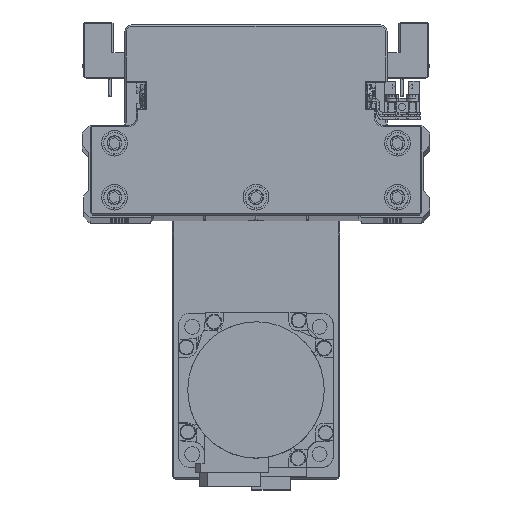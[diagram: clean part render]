
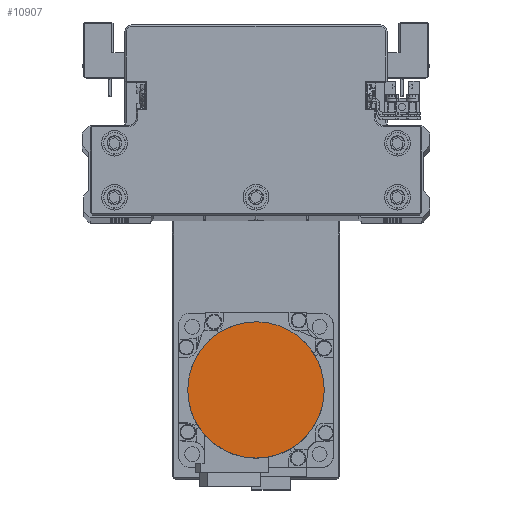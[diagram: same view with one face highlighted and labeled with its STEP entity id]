
A CAD part, top view. The second image highlights one B-rep face of the part: STEP entity #10907.
In plain terms, the highlighted planar face has unit normal (0, 0, 1) as drawn and (0, 0, -1) by its records, which use the part's own axes.
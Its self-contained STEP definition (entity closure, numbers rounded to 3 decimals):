
#85 = CARTESIAN_POINT ( 'NONE',  ( -23.819, -11.744, -109.7 ) ) ;
#291 = CARTESIAN_POINT ( 'NONE',  ( 3.469, -26.329, -109.7 ) ) ;
#498 = CARTESIAN_POINT ( 'NONE',  ( 26.329, -3.469, -109.7 ) ) ;
#1453 = CARTESIAN_POINT ( 'NONE',  ( 0., 0., -109.7 ) ) ;
#1503 = CARTESIAN_POINT ( 'NONE',  ( 13.28, 22.998, -109.7 ) ) ;
#1706 = CARTESIAN_POINT ( 'NONE',  ( -17.512, 19.965, -109.7 ) ) ;
#2713 = CARTESIAN_POINT ( 'NONE',  ( -26.5, 0., -109.7 ) ) ;
#3217 = CARTESIAN_POINT ( 'NONE',  ( -26.329, -3.469, -109.7 ) ) ;
#3425 = CARTESIAN_POINT ( 'NONE',  ( -3.469, -26.329, -109.7 ) ) ;
#3626 = CARTESIAN_POINT ( 'NONE',  ( 23.819, -11.744, -109.7 ) ) ;
#4636 = CARTESIAN_POINT ( 'NONE',  ( 19.965, 17.512, -109.7 ) ) ;
#4840 = CARTESIAN_POINT ( 'NONE',  ( -11.744, 23.819, -109.7 ) ) ;
#6566 = CARTESIAN_POINT ( 'NONE',  ( -11.744, -23.819, -109.7 ) ) ;
#6775 = CARTESIAN_POINT ( 'NONE',  ( 19.965, -17.512, -109.7 ) ) ;
#7769 = CARTESIAN_POINT ( 'NONE',  ( 23.819, 11.744, -109.7 ) ) ;
#7982 = CARTESIAN_POINT ( 'NONE',  ( -3.469, 26.329, -109.7 ) ) ;
#8188 = CARTESIAN_POINT ( 'NONE',  ( -26.329, 3.469, -109.7 ) ) ;
#9698 = CARTESIAN_POINT ( 'NONE',  ( -17.512, -19.965, -109.7 ) ) ;
#9910 = CARTESIAN_POINT ( 'NONE',  ( 13.28, -22.998, -109.7 ) ) ;
#10907 = ADVANCED_FACE ( 'NONE', ( #17317 ), #30026, .F. ) ;
#10911 = CARTESIAN_POINT ( 'NONE',  ( 26.329, 3.469, -109.7 ) ) ;
#11116 = CARTESIAN_POINT ( 'NONE',  ( 3.469, 26.329, -109.7 ) ) ;
#11326 = CARTESIAN_POINT ( 'NONE',  ( -23.819, 11.744, -109.7 ) ) ;
#12395 = EDGE_CURVE ( 'NONE', #23675, #39222, #20822, .T. ) ;
#12494 = ORIENTED_EDGE ( 'NONE', *, *, #12395, .F. ) ;
#12825 = CARTESIAN_POINT ( 'NONE',  ( -22.998, -13.28, -109.7 ) ) ;
#13031 = CARTESIAN_POINT ( 'NONE',  ( 6.871, -25.652, -109.7 ) ) ;
#13247 = CARTESIAN_POINT ( 'NONE',  ( 26.5, -1.734, -109.7 ) ) ;
#14183 = DIRECTION ( 'NONE',  ( 0., 0., 1. ) ) ;
#14233 = CARTESIAN_POINT ( 'NONE',  ( 11.744, 23.819, -109.7 ) ) ;
#14446 = CARTESIAN_POINT ( 'NONE',  ( -19.965, 17.512, -109.7 ) ) ;
#15951 = CARTESIAN_POINT ( 'NONE',  ( -25.652, -6.871, -109.7 ) ) ;
#16153 = CARTESIAN_POINT ( 'NONE',  ( -1.734, -26.5, -109.7 ) ) ;
#16358 = CARTESIAN_POINT ( 'NONE',  ( 25.147, -8.539, -109.7 ) ) ;
#16711 = CARTESIAN_POINT ( 'NONE',  ( 26.5, 0., -109.7 ) ) ;
#17317 = FACE_OUTER_BOUND ( 'NONE', #19040, .T. ) ;
#17370 = CARTESIAN_POINT ( 'NONE',  ( 17.512, 19.965, -109.7 ) ) ;
#17576 = CARTESIAN_POINT ( 'NONE',  ( -13.28, 22.998, -109.7 ) ) ;
#19040 = EDGE_LOOP ( 'NONE', ( #23245, #12494 ) ) ;
#19099 = CARTESIAN_POINT ( 'NONE',  ( -26.5, 0., -109.7 ) ) ;
#19314 = CARTESIAN_POINT ( 'NONE',  ( -8.539, -25.147, -109.7 ) ) ;
#19518 = CARTESIAN_POINT ( 'NONE',  ( 21.07, -16.165, -109.7 ) ) ;
#20335 = EDGE_CURVE ( 'NONE', #39222, #23675, #37772, .T. ) ;
#20517 = CARTESIAN_POINT ( 'NONE',  ( 22.998, 13.28, -109.7 ) ) ;
#20725 = CARTESIAN_POINT ( 'NONE',  ( -6.871, 25.652, -109.7 ) ) ;
#20822 = B_SPLINE_CURVE_WITH_KNOTS ( 'NONE', 3,
 ( #19099, #31793, #3217, #15951, #28672, #85, #12825, #25549, #38271, #9698, #22432, #35139, #6566, #19314, #31998, #3425, #16153, #28871, #291, #13031, #25749, #38486, #9910, #22645, #35351, #6775, #19518, #32200, #3626, #16358, #29076, #498, #13247, #25966 ),
 .UNSPECIFIED., .F., .F.,
 ( 4, 2, 2, 2, 2, 2, 2, 2, 2, 2, 2, 2, 2, 2, 2, 2, 4 ),
 ( 0., 0.063, 0.125, 0.188, 0.25, 0.312, 0.375, 0.437, 0.5, 0.562, 0.625, 0.687, 0.75, 0.813, 0.875, 0.938, 1. ),
 .UNSPECIFIED. ) ;
#20928 = CARTESIAN_POINT ( 'NONE',  ( -26.5, 1.734, -109.7 ) ) ;
#22432 = CARTESIAN_POINT ( 'NONE',  ( -16.165, -21.07, -109.7 ) ) ;
#22645 = CARTESIAN_POINT ( 'NONE',  ( 16.165, -21.07, -109.7 ) ) ;
#23160 = AXIS2_PLACEMENT_3D ( 'NONE', #1453, #14183, #26900 ) ;
#23245 = ORIENTED_EDGE ( 'NONE', *, *, #20335, .F. ) ;
#23637 = CARTESIAN_POINT ( 'NONE',  ( 25.652, 6.871, -109.7 ) ) ;
#23675 = VERTEX_POINT ( 'NONE', #2713 ) ;
#23848 = CARTESIAN_POINT ( 'NONE',  ( 1.734, 26.5, -109.7 ) ) ;
#24056 = CARTESIAN_POINT ( 'NONE',  ( -25.147, 8.539, -109.7 ) ) ;
#25549 = CARTESIAN_POINT ( 'NONE',  ( -21.07, -16.165, -109.7 ) ) ;
#25749 = CARTESIAN_POINT ( 'NONE',  ( 8.539, -25.147, -109.7 ) ) ;
#25966 = CARTESIAN_POINT ( 'NONE',  ( 26.5, 0., -109.7 ) ) ;
#26744 = CARTESIAN_POINT ( 'NONE',  ( 26.5, 0., -109.7 ) ) ;
#26900 = DIRECTION ( 'NONE',  ( 1., 0., 0. ) ) ;
#26951 = CARTESIAN_POINT ( 'NONE',  ( 8.539, 25.147, -109.7 ) ) ;
#27167 = CARTESIAN_POINT ( 'NONE',  ( -21.07, 16.165, -109.7 ) ) ;
#28672 = CARTESIAN_POINT ( 'NONE',  ( -25.147, -8.539, -109.7 ) ) ;
#28871 = CARTESIAN_POINT ( 'NONE',  ( 1.734, -26.5, -109.7 ) ) ;
#29076 = CARTESIAN_POINT ( 'NONE',  ( 25.652, -6.871, -109.7 ) ) ;
#30026 = PLANE ( 'NONE',  #23160 ) ;
#30074 = CARTESIAN_POINT ( 'NONE',  ( 16.165, 21.07, -109.7 ) ) ;
#30277 = CARTESIAN_POINT ( 'NONE',  ( -16.165, 21.07, -109.7 ) ) ;
#31793 = CARTESIAN_POINT ( 'NONE',  ( -26.5, -1.734, -109.7 ) ) ;
#31998 = CARTESIAN_POINT ( 'NONE',  ( -6.871, -25.652, -109.7 ) ) ;
#32200 = CARTESIAN_POINT ( 'NONE',  ( 22.998, -13.28, -109.7 ) ) ;
#33206 = CARTESIAN_POINT ( 'NONE',  ( 21.07, 16.165, -109.7 ) ) ;
#33414 = CARTESIAN_POINT ( 'NONE',  ( -8.539, 25.147, -109.7 ) ) ;
#33619 = CARTESIAN_POINT ( 'NONE',  ( -26.5, 0., -109.7 ) ) ;
#35139 = CARTESIAN_POINT ( 'NONE',  ( -13.28, -22.998, -109.7 ) ) ;
#35351 = CARTESIAN_POINT ( 'NONE',  ( 17.512, -19.965, -109.7 ) ) ;
#36344 = CARTESIAN_POINT ( 'NONE',  ( 25.147, 8.539, -109.7 ) ) ;
#36552 = CARTESIAN_POINT ( 'NONE',  ( -1.734, 26.5, -109.7 ) ) ;
#36753 = CARTESIAN_POINT ( 'NONE',  ( -25.652, 6.871, -109.7 ) ) ;
#37772 = B_SPLINE_CURVE_WITH_KNOTS ( 'NONE', 3,
 ( #26744, #39477, #10911, #23637, #36344, #7769, #20517, #33206, #4636, #17370, #30074, #1503, #14233, #26951, #39681, #11116, #23848, #36552, #7982, #20725, #33414, #4840, #17576, #30277, #1706, #14446, #27167, #39891, #11326, #24056, #36753, #8188, #20928, #33619 ),
 .UNSPECIFIED., .F., .F.,
 ( 4, 2, 2, 2, 2, 2, 2, 2, 2, 2, 2, 2, 2, 2, 2, 2, 4 ),
 ( 0., 0.062, 0.125, 0.187, 0.25, 0.312, 0.375, 0.437, 0.5, 0.562, 0.625, 0.687, 0.75, 0.813, 0.875, 0.938, 1. ),
 .UNSPECIFIED. ) ;
#38271 = CARTESIAN_POINT ( 'NONE',  ( -19.965, -17.512, -109.7 ) ) ;
#38486 = CARTESIAN_POINT ( 'NONE',  ( 11.744, -23.819, -109.7 ) ) ;
#39222 = VERTEX_POINT ( 'NONE', #16711 ) ;
#39477 = CARTESIAN_POINT ( 'NONE',  ( 26.5, 1.734, -109.7 ) ) ;
#39681 = CARTESIAN_POINT ( 'NONE',  ( 6.871, 25.652, -109.7 ) ) ;
#39891 = CARTESIAN_POINT ( 'NONE',  ( -22.998, 13.28, -109.7 ) ) ;
